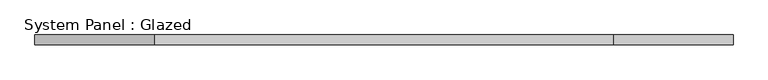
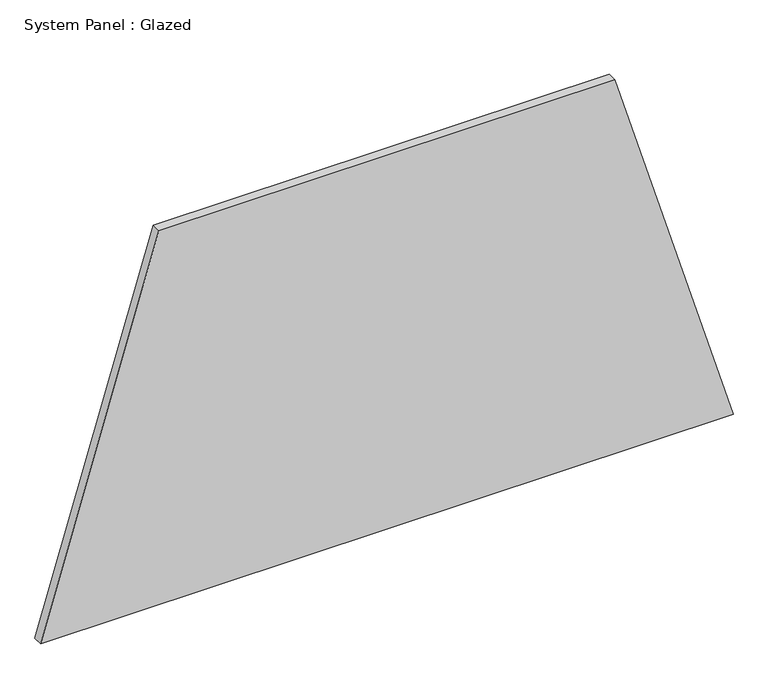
"""IFC4 building model written with IfcOpenShell, lengths in millimetres: plate geometry, System Panel : Glazed."""

from ifc_helpers import new_model, si_unit, frame, origin, place, context, project, spatial, polyline, outline, extrude, source, transform, mapped, element, save


def system_panel_glazed_c7a8e9dd(model_context):
    return source(origin(), model_context, "Body", "SweptSolid", [
        extrude(outline(polyline([(0.0, -895.3208184), (0.0, 895.3208184), (1022.0392399, 589.5463394), (1022.0392399, -589.5463394), (0.0, -895.3208184)])), frame((0.0, -44.45, 0.0), z_axis=(0.0, 1.0, 0.0), x_axis=(0.0, 0.0, 1.0)), (0.0, 0.0, 1.0), 25.4),
    ])


if __name__ == "__main__":
    model = new_model("IFC4")
    model_context = context("Model", 3, world=origin())
    ifc_project = project(units=[si_unit("LENGTHUNIT", "METRE", prefix="MILLI")], contexts=[model_context])
    site = spatial("IfcSite", under=ifc_project)
    building = spatial("IfcBuilding", under=site)
    placement = place(None, origin())
    system_panel_glazed_shape = system_panel_glazed_c7a8e9dd(model_context)
    element("IfcPlate", 1, ObjectType="System Panel : Glazed", at=placement, inside=building, context=model_context, shape_type="MappedRepresentation", body=[
        mapped(system_panel_glazed_shape, transform((0.0, 0.0, 0.0), x_axis=(1.0, 0.0, 0.0), y_axis=(0.0, 1.0, 0.0), z_axis=(0.0, 0.0, 1.0))),
    ])
    save(model, "model.ifc")
